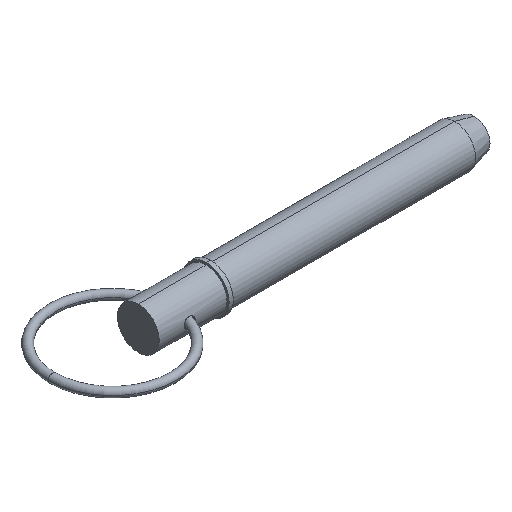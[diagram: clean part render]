
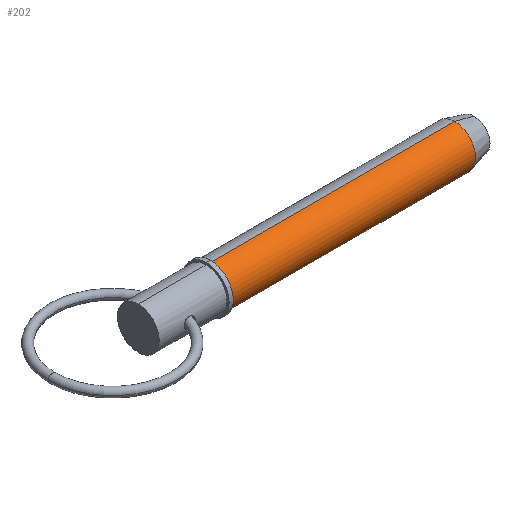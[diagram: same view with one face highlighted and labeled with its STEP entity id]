
A CAD part, isometric view. The second image highlights one B-rep face of the part: STEP entity #202.
In plain terms, the highlighted cylindrical face has radius 11.115 mm (diameter 22.23 mm), a partial arc.
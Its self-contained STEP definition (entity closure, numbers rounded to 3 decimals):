
#23 = CARTESIAN_POINT ( 'NONE',  ( 167.43, 0., 0. ) ) ;
#66 = ORIENTED_EDGE ( 'NONE', *, *, #857, .F. ) ;
#87 = DIRECTION ( 'NONE',  ( 1., 0., 0. ) ) ;
#144 = CYLINDRICAL_SURFACE ( 'NONE', #351, 11.115 ) ;
#188 = EDGE_CURVE ( 'NONE', #566, #896, #419, .T. ) ;
#202 = ADVANCED_FACE ( 'NONE', ( #336 ), #144, .T. ) ;
#231 = ORIENTED_EDGE ( 'NONE', *, *, #188, .T. ) ;
#336 = FACE_OUTER_BOUND ( 'NONE', #377, .T. ) ;
#350 = DIRECTION ( 'NONE',  ( 0., 0., -1. ) ) ;
#351 = AXIS2_PLACEMENT_3D ( 'NONE', #645, #87, #983 ) ;
#357 = ORIENTED_EDGE ( 'NONE', *, *, #533, .F. ) ;
#376 = CARTESIAN_POINT ( 'NONE',  ( 0., 0., 11.115 ) ) ;
#377 = EDGE_LOOP ( 'NONE', ( #357, #449, #231, #66 ) ) ;
#410 = AXIS2_PLACEMENT_3D ( 'NONE', #23, #762, #350 ) ;
#411 = CARTESIAN_POINT ( 'NONE',  ( 167.43, 0., 11.115 ) ) ;
#419 = LINE ( 'NONE', #835, #1001 ) ;
#445 = CARTESIAN_POINT ( 'NONE',  ( 167.43, 0., -11.115 ) ) ;
#449 = ORIENTED_EDGE ( 'NONE', *, *, #767, .T. ) ;
#479 = DIRECTION ( 'NONE',  ( 1., 0., 0. ) ) ;
#533 = EDGE_CURVE ( 'NONE', #796, #727, #622, .T. ) ;
#566 = VERTEX_POINT ( 'NONE', #957 ) ;
#569 = CARTESIAN_POINT ( 'NONE',  ( 38.1, 0., 11.115 ) ) ;
#622 = LINE ( 'NONE', #376, #1057 ) ;
#629 = DIRECTION ( 'NONE',  ( 1., 0., 0. ) ) ;
#645 = CARTESIAN_POINT ( 'NONE',  ( 0., 0., 0. ) ) ;
#658 = DIRECTION ( 'NONE',  ( 0., 0., -1. ) ) ;
#727 = VERTEX_POINT ( 'NONE', #411 ) ;
#762 = DIRECTION ( 'NONE',  ( 1., 0., 0. ) ) ;
#767 = EDGE_CURVE ( 'NONE', #796, #566, #876, .T. ) ;
#796 = VERTEX_POINT ( 'NONE', #569 ) ;
#835 = CARTESIAN_POINT ( 'NONE',  ( 0., 0., -11.115 ) ) ;
#857 = EDGE_CURVE ( 'NONE', #727, #896, #929, .T. ) ;
#876 = CIRCLE ( 'NONE', #982, 11.115 ) ;
#896 = VERTEX_POINT ( 'NONE', #445 ) ;
#911 = CARTESIAN_POINT ( 'NONE',  ( 38.1, 0., 0. ) ) ;
#929 = CIRCLE ( 'NONE', #410, 11.115 ) ;
#957 = CARTESIAN_POINT ( 'NONE',  ( 38.1, 0., -11.115 ) ) ;
#980 = DIRECTION ( 'NONE',  ( 1., 0., 0. ) ) ;
#982 = AXIS2_PLACEMENT_3D ( 'NONE', #911, #980, #658 ) ;
#983 = DIRECTION ( 'NONE',  ( 0., 0., -1. ) ) ;
#1001 = VECTOR ( 'NONE', #479, 1000. ) ;
#1057 = VECTOR ( 'NONE', #629, 1000. ) ;
